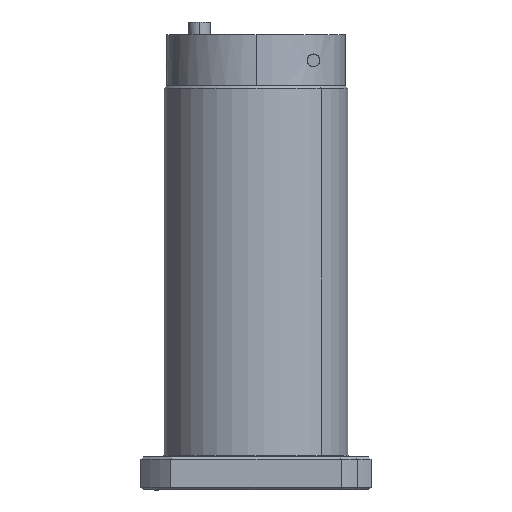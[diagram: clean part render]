
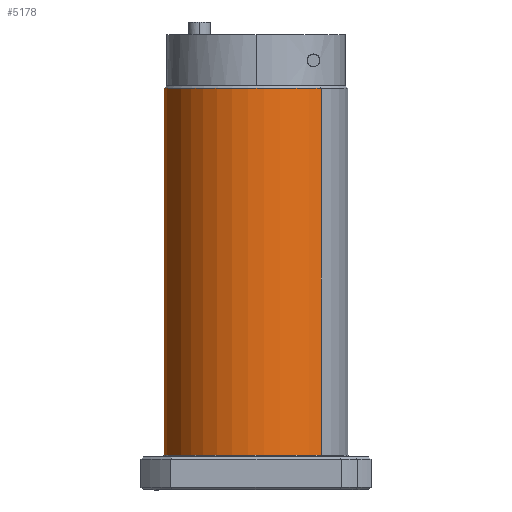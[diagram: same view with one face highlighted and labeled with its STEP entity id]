
A CAD part, left-side view. The second image highlights one B-rep face of the part: STEP entity #5178.
In plain terms, the highlighted cylindrical face has radius 36 mm (diameter 72 mm), a partial arc.
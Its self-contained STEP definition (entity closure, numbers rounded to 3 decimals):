
#111 = AXIS2_PLACEMENT_3D ( 'NONE', #2404, #908, #8725 ) ;
#176 = EDGE_LOOP ( 'NONE', ( #5347, #1280, #8134, #5280 ) ) ;
#270 = EDGE_CURVE ( 'NONE', #4055, #4559, #2670, .T. ) ;
#636 = VERTEX_POINT ( 'NONE', #8718 ) ;
#826 = FACE_OUTER_BOUND ( 'NONE', #176, .T. ) ;
#841 = VERTEX_POINT ( 'NONE', #4133 ) ;
#908 = DIRECTION ( 'NONE',  ( 0., 0., -1. ) ) ;
#1280 = ORIENTED_EDGE ( 'NONE', *, *, #3956, .T. ) ;
#1332 = CIRCLE ( 'NONE', #3009, 36. ) ;
#1430 = AXIS2_PLACEMENT_3D ( 'NONE', #9173, #4200, #4904 ) ;
#1499 = CYLINDRICAL_SURFACE ( 'NONE', #111, 36. ) ;
#2020 = CARTESIAN_POINT ( 'NONE',  ( -46.534, -29.428, 164.892 ) ) ;
#2404 = CARTESIAN_POINT ( 'NONE',  ( -21.078, -3.972, 164.892 ) ) ;
#2670 = LINE ( 'NONE', #2020, #6549 ) ;
#2688 = LINE ( 'NONE', #2910, #5699 ) ;
#2781 = CARTESIAN_POINT ( 'NONE',  ( -46.534, -29.428, 92.892 ) ) ;
#2810 = DIRECTION ( 'NONE',  ( 0.707, 0.707, 0. ) ) ;
#2910 = CARTESIAN_POINT ( 'NONE',  ( 4.378, 21.483, 164.892 ) ) ;
#3009 = AXIS2_PLACEMENT_3D ( 'NONE', #4958, #7824, #2810 ) ;
#3424 = EDGE_CURVE ( 'NONE', #841, #4055, #7212, .T. ) ;
#3956 = EDGE_CURVE ( 'NONE', #841, #636, #2688, .T. ) ;
#4055 = VERTEX_POINT ( 'NONE', #8368 ) ;
#4133 = CARTESIAN_POINT ( 'NONE',  ( 4.378, 21.483, 236.392 ) ) ;
#4200 = DIRECTION ( 'NONE',  ( 0., 0., 1. ) ) ;
#4559 = VERTEX_POINT ( 'NONE', #2781 ) ;
#4904 = DIRECTION ( 'NONE',  ( 0.707, 0.707, 0. ) ) ;
#4958 = CARTESIAN_POINT ( 'NONE',  ( -21.078, -3.972, 92.892 ) ) ;
#5178 = ADVANCED_FACE ( 'NONE', ( #826 ), #1499, .T. ) ;
#5280 = ORIENTED_EDGE ( 'NONE', *, *, #270, .F. ) ;
#5347 = ORIENTED_EDGE ( 'NONE', *, *, #3424, .F. ) ;
#5699 = VECTOR ( 'NONE', #9316, 1000. ) ;
#6549 = VECTOR ( 'NONE', #6942, 1000. ) ;
#6942 = DIRECTION ( 'NONE',  ( 0., 0., -1. ) ) ;
#7212 = CIRCLE ( 'NONE', #1430, 36. ) ;
#7265 = EDGE_CURVE ( 'NONE', #4559, #636, #1332, .T. ) ;
#7824 = DIRECTION ( 'NONE',  ( 0., 0., -1. ) ) ;
#8134 = ORIENTED_EDGE ( 'NONE', *, *, #7265, .F. ) ;
#8368 = CARTESIAN_POINT ( 'NONE',  ( -46.534, -29.428, 236.392 ) ) ;
#8718 = CARTESIAN_POINT ( 'NONE',  ( 4.378, 21.483, 92.892 ) ) ;
#8725 = DIRECTION ( 'NONE',  ( -0.707, -0.707, 0. ) ) ;
#9173 = CARTESIAN_POINT ( 'NONE',  ( -21.078, -3.972, 236.392 ) ) ;
#9316 = DIRECTION ( 'NONE',  ( 0., 0., -1. ) ) ;
